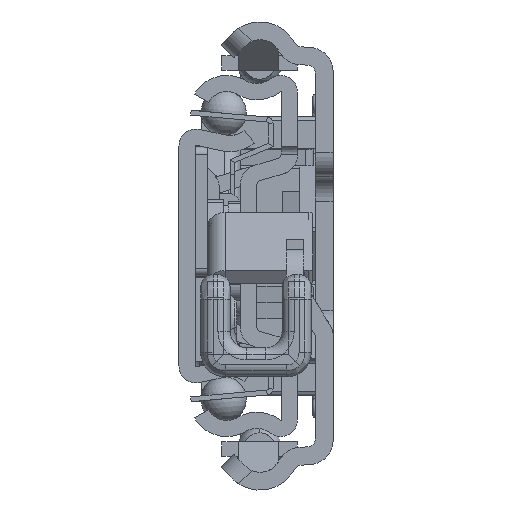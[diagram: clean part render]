
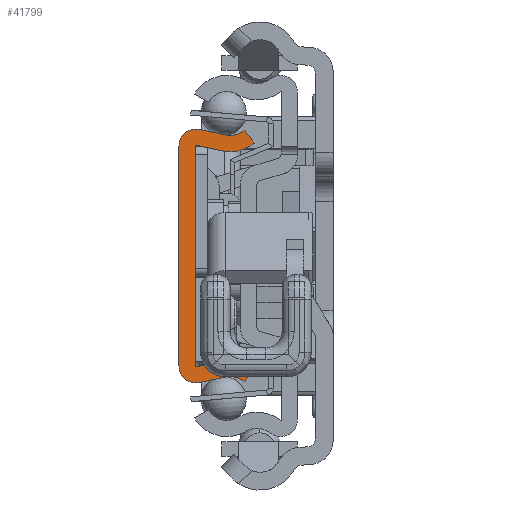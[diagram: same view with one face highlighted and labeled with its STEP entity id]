
A CAD part, left-side view. The second image highlights one B-rep face of the part: STEP entity #41799.
In plain terms, the highlighted planar face has unit normal (-1, 0, 0).
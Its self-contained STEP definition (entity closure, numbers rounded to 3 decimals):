
#37198=CARTESIAN_POINT('',(0.,-6.29,-17.65));
#37199=DIRECTION('',(-1.,0.,0.));
#37200=DIRECTION('',(0.,-0.629,0.778));
#37201=AXIS2_PLACEMENT_3D('',#37198,#37199,#37200);
#37203=DIRECTION('',(0.,0.977,-0.213));
#37204=VECTOR('',#37203,3.218);
#37205=CARTESIAN_POINT('',(0.,-5.692,-14.915));
#37206=LINE('',#37205,#37204);
#37207=CARTESIAN_POINT('',(0.,-2.1,-13.55));
#37208=DIRECTION('',(1.,0.,0.));
#37209=DIRECTION('',(0.,-0.213,-0.977));
#37210=AXIS2_PLACEMENT_3D('',#37207,#37208,#37209);
#37212=DIRECTION('',(0.,0.,1.));
#37213=VECTOR('',#37212,27.1);
#37214=CARTESIAN_POINT('',(0.,0.,-13.55));
#37215=LINE('',#37214,#37213);
#37216=CARTESIAN_POINT('',(0.,-2.1,13.55));
#37217=DIRECTION('',(1.,0.,0.));
#37218=DIRECTION('',(0.,1.,0.));
#37219=AXIS2_PLACEMENT_3D('',#37216,#37217,#37218);
#37221=DIRECTION('',(0.,-0.977,-0.213));
#37222=VECTOR('',#37221,3.218);
#37223=CARTESIAN_POINT('',(0.,-2.548,15.602));
#37224=LINE('',#37223,#37222);
#37225=CARTESIAN_POINT('',(0.,-6.29,17.65));
#37226=DIRECTION('',(-1.,0.,0.));
#37227=DIRECTION('',(0.,0.213,-0.977));
#37228=AXIS2_PLACEMENT_3D('',#37225,#37226,#37227);
#37230=DIRECTION('',(0.,-0.629,-0.778));
#37231=VECTOR('',#37230,2.);
#37232=CARTESIAN_POINT('',(0.,-8.05,15.472));
#37233=LINE('',#37232,#37231);
#37234=CARTESIAN_POINT('',(0.,-6.29,17.65));
#37235=DIRECTION('',(1.,0.,0.));
#37236=DIRECTION('',(0.,-0.629,-0.778));
#37237=AXIS2_PLACEMENT_3D('',#37234,#37235,#37236);
#37239=DIRECTION('',(0.,0.977,0.213));
#37240=VECTOR('',#37239,3.218);
#37241=CARTESIAN_POINT('',(0.,-5.265,12.961));
#37242=LINE('',#37241,#37240);
#37243=CARTESIAN_POINT('',(0.,-2.1,13.55));
#37244=DIRECTION('',(-1.,0.,0.));
#37245=DIRECTION('',(0.,-0.213,0.977));
#37246=AXIS2_PLACEMENT_3D('',#37243,#37244,#37245);
#37248=DIRECTION('',(0.,0.,-1.));
#37249=VECTOR('',#37248,27.1);
#37250=CARTESIAN_POINT('',(0.,-2.,13.55));
#37251=LINE('',#37250,#37249);
#37252=CARTESIAN_POINT('',(0.,-2.1,-13.55));
#37253=DIRECTION('',(-1.,0.,0.));
#37254=DIRECTION('',(0.,1.,0.));
#37255=AXIS2_PLACEMENT_3D('',#37252,#37253,#37254);
#37257=DIRECTION('',(0.,-0.977,0.213));
#37258=VECTOR('',#37257,3.218);
#37259=CARTESIAN_POINT('',(0.,-2.121,-13.648));
#37260=LINE('',#37259,#37258);
#37261=CARTESIAN_POINT('',(0.,-6.29,-17.65));
#37262=DIRECTION('',(1.,0.,0.));
#37263=DIRECTION('',(0.,0.213,0.977));
#37264=AXIS2_PLACEMENT_3D('',#37261,#37262,#37263);
#37266=DIRECTION('',(0.,0.629,-0.778));
#37267=VECTOR('',#37266,2.);
#37268=CARTESIAN_POINT('',(0.,-9.307,-13.917));
#37269=LINE('',#37268,#37267);
#40929=CARTESIAN_POINT('',(0.,-8.05,-15.472));
#40930=CARTESIAN_POINT('',(0.,-5.692,-14.915));
#40931=VERTEX_POINT('',#40929);
#40932=VERTEX_POINT('',#40930);
#40933=CARTESIAN_POINT('',(0.,-2.548,-15.602));
#40934=VERTEX_POINT('',#40933);
#40935=CARTESIAN_POINT('',(0.,0.,-13.55));
#40936=VERTEX_POINT('',#40935);
#40937=CARTESIAN_POINT('',(0.,0.,13.55));
#40938=VERTEX_POINT('',#40937);
#40939=CARTESIAN_POINT('',(0.,-2.548,15.602));
#40940=VERTEX_POINT('',#40939);
#40941=CARTESIAN_POINT('',(0.,-5.692,14.915));
#40942=VERTEX_POINT('',#40941);
#40943=CARTESIAN_POINT('',(0.,-8.05,15.472));
#40944=VERTEX_POINT('',#40943);
#40945=CARTESIAN_POINT('',(0.,-9.307,13.917));
#40946=VERTEX_POINT('',#40945);
#40947=CARTESIAN_POINT('',(0.,-5.265,12.961));
#40948=VERTEX_POINT('',#40947);
#40949=CARTESIAN_POINT('',(0.,-2.121,13.648));
#40950=VERTEX_POINT('',#40949);
#40951=CARTESIAN_POINT('',(0.,-2.,13.55));
#40952=VERTEX_POINT('',#40951);
#40953=CARTESIAN_POINT('',(0.,-2.,-13.55));
#40954=VERTEX_POINT('',#40953);
#40955=CARTESIAN_POINT('',(0.,-2.121,-13.648));
#40956=VERTEX_POINT('',#40955);
#40957=CARTESIAN_POINT('',(0.,-5.265,-12.961));
#40958=VERTEX_POINT('',#40957);
#40959=CARTESIAN_POINT('',(0.,-9.307,-13.917));
#40960=VERTEX_POINT('',#40959);
#41760=CARTESIAN_POINT('',(0.,0.,0.));
#41761=DIRECTION('',(1.,0.,0.));
#41762=DIRECTION('',(0.,-1.,0.));
#41763=AXIS2_PLACEMENT_3D('',#41760,#41761,#41762);
#41764=PLANE('',#41763);
#41766=ORIENTED_EDGE('',*,*,#41765,.T.);
#41768=ORIENTED_EDGE('',*,*,#41767,.T.);
#41770=ORIENTED_EDGE('',*,*,#41769,.T.);
#41772=ORIENTED_EDGE('',*,*,#41771,.T.);
#41774=ORIENTED_EDGE('',*,*,#41773,.T.);
#41776=ORIENTED_EDGE('',*,*,#41775,.T.);
#41778=ORIENTED_EDGE('',*,*,#41777,.T.);
#41780=ORIENTED_EDGE('',*,*,#41779,.T.);
#41782=ORIENTED_EDGE('',*,*,#41781,.T.);
#41784=ORIENTED_EDGE('',*,*,#41783,.T.);
#41786=ORIENTED_EDGE('',*,*,#41785,.T.);
#41788=ORIENTED_EDGE('',*,*,#41787,.T.);
#41790=ORIENTED_EDGE('',*,*,#41789,.T.);
#41792=ORIENTED_EDGE('',*,*,#41791,.T.);
#41794=ORIENTED_EDGE('',*,*,#41793,.T.);
#41796=ORIENTED_EDGE('',*,*,#41795,.T.);
#41797=EDGE_LOOP('',(#41766,#41768,#41770,#41772,#41774,#41776,#41778,#41780,
#41782,#41784,#41786,#41788,#41790,#41792,#41794,#41796));
#41798=FACE_OUTER_BOUND('',#41797,.F.);
#37202=CIRCLE('',#37201,2.8);
#37211=CIRCLE('',#37210,2.1);
#37220=CIRCLE('',#37219,2.1);
#37229=CIRCLE('',#37228,2.8);
#37238=CIRCLE('',#37237,4.8);
#37247=CIRCLE('',#37246,0.1);
#37256=CIRCLE('',#37255,0.1);
#37265=CIRCLE('',#37264,4.8);
#41765=EDGE_CURVE('',#40931,#40932,#37202,.T.);
#41767=EDGE_CURVE('',#40932,#40934,#37206,.T.);
#41769=EDGE_CURVE('',#40934,#40936,#37211,.T.);
#41771=EDGE_CURVE('',#40936,#40938,#37215,.T.);
#41773=EDGE_CURVE('',#40938,#40940,#37220,.T.);
#41775=EDGE_CURVE('',#40940,#40942,#37224,.T.);
#41777=EDGE_CURVE('',#40942,#40944,#37229,.T.);
#41779=EDGE_CURVE('',#40944,#40946,#37233,.T.);
#41781=EDGE_CURVE('',#40946,#40948,#37238,.T.);
#41783=EDGE_CURVE('',#40948,#40950,#37242,.T.);
#41785=EDGE_CURVE('',#40950,#40952,#37247,.T.);
#41787=EDGE_CURVE('',#40952,#40954,#37251,.T.);
#41789=EDGE_CURVE('',#40954,#40956,#37256,.T.);
#41791=EDGE_CURVE('',#40956,#40958,#37260,.T.);
#41793=EDGE_CURVE('',#40958,#40960,#37265,.T.);
#41795=EDGE_CURVE('',#40960,#40931,#37269,.T.);
#41799=ADVANCED_FACE('',(#41798),#41764,.F.);
